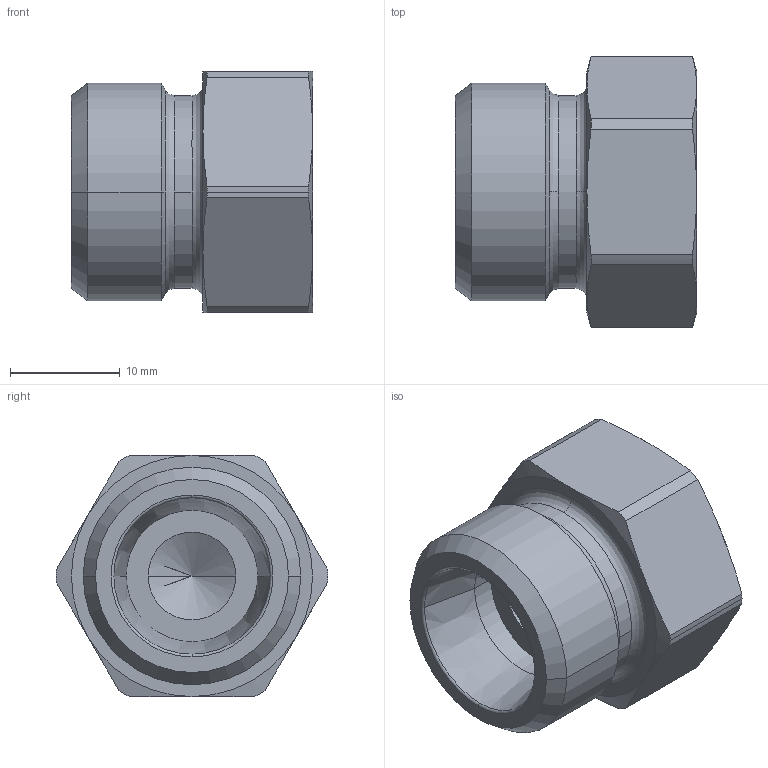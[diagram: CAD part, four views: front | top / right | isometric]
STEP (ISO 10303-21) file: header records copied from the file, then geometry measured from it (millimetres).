
FILE_DESCRIPTION((''),'2;1');
FILE_NAME('108017.stp','2007-10-31T16:31:27',(''),(''),'AutoCAD STEP 2000i','AutoCAD 2000i',', , ');
FILE_SCHEMA(('CONFIG_CONTROL_DESIGN'));
Length unit declared in the file: millimetre
Products named in the file (2): 108017.0; CHIAVE SMUSSATA#0
Assembly tree (1 placements, depth 2):
  108017.0
    CHIAVE SMUSSATA#0
Bounding box: 22 x 24.8 x 22 mm (x, y, z)
Volume: 6504.8 mm3; surface area: 2628.8 mm2
Topology: 1 solids, 1 shells, 52 faces, 126 edges, 77 vertices
Faces by surface type: cone 20, cylinder 16, plane 10, bspline 4, torus 2
Entity records: 1767 total; most frequent: CARTESIAN_POINT 479, DIRECTION 270, ORIENTED_EDGE 248, EDGE_CURVE 124, AXIS2_PLACEMENT_3D 120, VERTEX_POINT 77, CIRCLE 70, EDGE_LOOP 55
